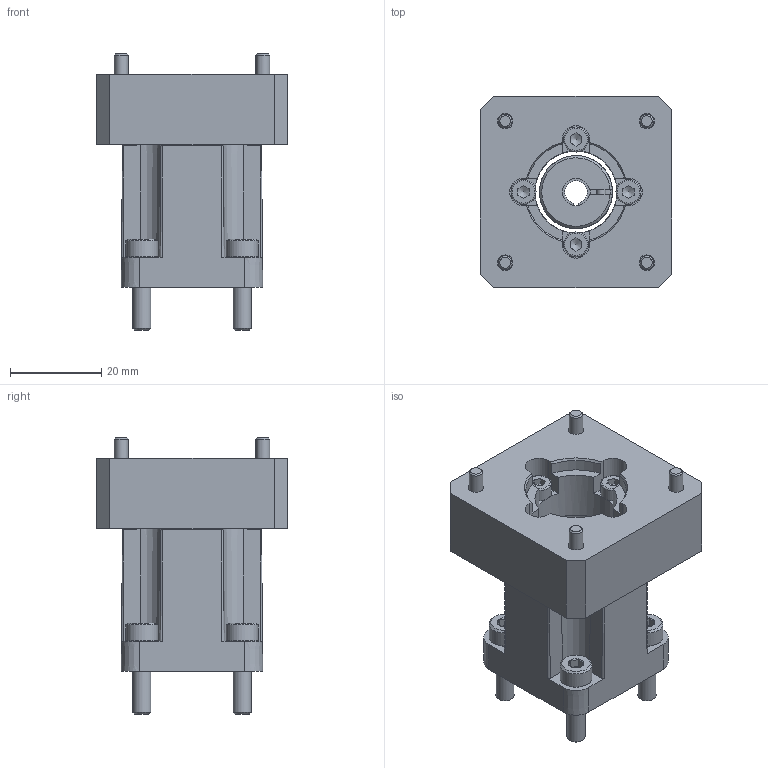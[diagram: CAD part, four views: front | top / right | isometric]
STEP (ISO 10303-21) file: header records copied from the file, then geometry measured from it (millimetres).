
FILE_DESCRIPTION(/* description */ ('EAMK-A O-Coupling housing'),/* implementation_level */ '2;1');
FILE_NAME(/* name */ 'C:\ホームページ用データ\\X2\307E305A30533053306B\X0\\J08146.stp',/* time_stamp */ '2015-04-08T13:40:45+09:00',/* author */ ('Cadenas PARTsolutions'),/* organization */ ('FESTO'),/* preprocessor_version */ 'ST-DEVELOPER v15.2',/* originating_system */ 'Autodesk Inventor 2014',/* authorisation */ '');
FILE_SCHEMA (('AUTOMOTIVE_DESIGN { 1 0 10303 214 3 1 1 }'));
Products named in the file (8): 1087585 EAMK-A-D19-28D---(1O); DIN-912 - M4x16(F); 1087585 EAMK-A-D19-28D; J08125; 543419_EAMC_16_20_5_6; コピー版 JIS B 1176 - M3 x 12; コピー版 JIS B 1176 - M3 x 10; J08146
Bounding box: 42 x 42 x 60.6 mm (x, y, z)
Volume: 39312.2 mm3; surface area: 21058.7 mm2
Topology: 15 solids, 16 shells, 500 faces, 1188 edges, 756 vertices
Faces by surface type: plane 263, cylinder 115, cone 103, torus 19
Full cylindrical faces by diameter (mm): 1 x8, 2 x3, 2.1 x3, 2.459 x4, 3 x8, 3.4 x8, 3.8 x2, 4 x6, 4.5 x4, 5.5 x8, 6 x4, 6.2 x1, 7 x4, 18 x1, 19 x1, 28 x1
Entity records: 9559 total; most frequent: CARTESIAN_POINT 1831, DIRECTION 1638, ORIENTED_EDGE 1430, EDGE_CURVE 715, AXIS2_PLACEMENT_3D 634, VERTEX_POINT 511, EDGE_LOOP 472, LINE 370
